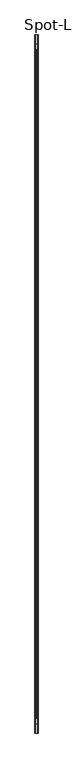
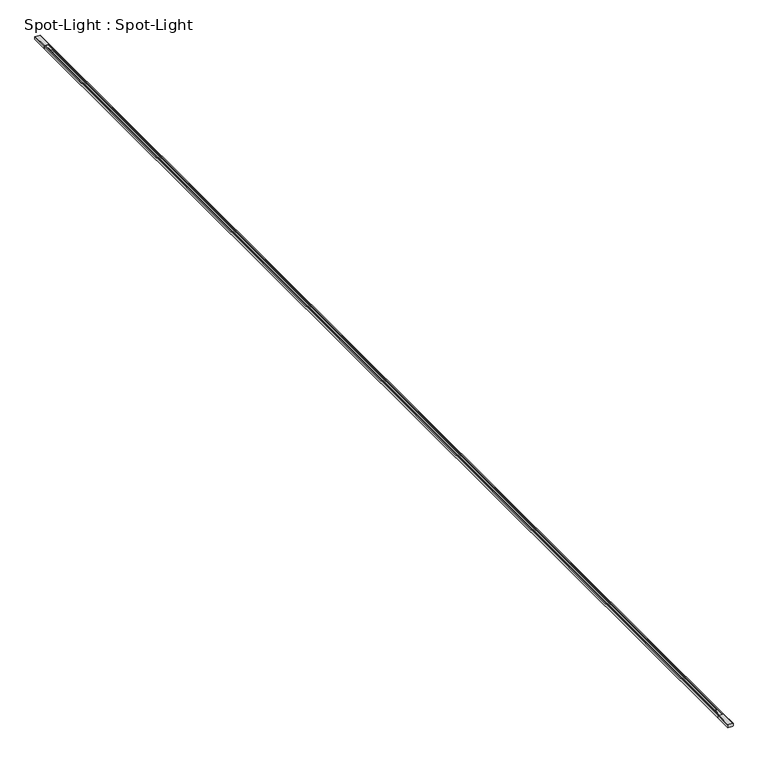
"""IFC4 building model written with IfcOpenShell, lengths in millimetres: light fixture geometry, Spot-Light : Spot-Light."""

from ifc_helpers import new_model, si_unit, frame, origin, place, context, project, spatial, polyline, outline, extrude, source, transform, mapped, element, save


def spot_light_spot_light_b98040ed(model_context):
    return source(origin(), model_context, "Body", "SweptSolid", [
        extrude(outline(polyline([(19.0002441, -6.5002441), (15.5004883, -6.5002441), (15.5004883, -12.9992664), (3.500061, -12.9992652), (3.500061, 12.99927), (15.5004883, 12.99927), (15.5004883, 6.5002441), (19.0002441, 6.5002441), (19.0002441, -6.5002441)])), frame((0.0, 3514.9810791, 0.0), z_axis=(0.0, 1.0, 0.0), x_axis=(0.0, 0.0, 1.0)), (0.0, 0.0, 1.0), 50.0),
        extrude(outline(polyline([(19.0005493, -14.6994006), (17.2003174, -16.5002429), (1.7999268, -16.5002406), (0.0, -14.6997035), (0.0, 14.6997094), (1.7999268, 16.5002465), (17.2003174, 16.5002465), (19.0005493, 14.6994041), (19.0005493, -14.6994006)])), frame((0.0, 3564.9810791, 0.0), z_axis=(0.0, 1.0, 0.0), x_axis=(0.0, 0.0, 1.0)), (0.0, 0.0, 1.0), 100.0),
        extrude(outline(polyline([(19.0002441, -6.5002441), (15.5004883, -6.5002441), (15.5004883, -12.9992664), (3.500061, -12.9992652), (3.500061, 12.99927), (15.5004883, 12.99927), (15.5004883, 6.5002441), (19.0002441, 6.5002441), (19.0002441, -6.5002441)])), frame((0.0, -3564.9810791, 0.0), z_axis=(0.0, 1.0, 0.0), x_axis=(0.0, 0.0, 1.0)), (0.0, 0.0, 1.0), 50.0),
        extrude(outline(polyline([(19.0005493, -14.6994006), (17.2003174, -16.5002429), (1.7999268, -16.5002406), (0.0, -14.6997035), (0.0, 14.6997094), (1.7999268, 16.5002465), (17.2003174, 16.5002465), (19.0005493, 14.6994041), (19.0005493, -14.6994006)])), frame((0.0, -3664.9810791, 0.0), z_axis=(0.0, 1.0, 0.0), x_axis=(0.0, 0.0, 1.0)), (0.0, 0.0, 1.0), 100.0),
        extrude(outline(polyline([(19.0002441, 6.5002441), (15.5004883, 6.5002441), (15.5004883, 12.99927), (3.500061, 12.99927), (3.500061, -12.9992652), (15.5004883, -12.9992664), (15.5004883, -6.5002441), (19.0002441, -6.5002441), (19.0002441, -14.6997058), (17.2003174, -16.5002429), (1.7999268, -16.5002406), (0.0, -14.6997035), (0.0, 14.6997094), (1.7999268, 16.5002465), (17.2003174, 16.5002465), (19.0002441, 14.6997094), (19.0002441, 6.5002441)])), frame((0.0, -3564.9810791, 0.0), z_axis=(0.0, 1.0, 0.0), x_axis=(0.0, 0.0, 1.0)), (0.0, 0.0, 1.0), 7129.9621582),
    ])


if __name__ == "__main__":
    model = new_model("IFC4")
    model_context = context("Model", 3, world=origin())
    ifc_project = project(units=[si_unit("LENGTHUNIT", "METRE", prefix="MILLI")], contexts=[model_context])
    site = spatial("IfcSite", under=ifc_project)
    building = spatial("IfcBuilding", under=site)
    placement = place(None, origin())
    spot_light_spot_light_shape = spot_light_spot_light_b98040ed(model_context)
    element("IfcLightFixture", 1, ObjectType="Spot-Light : Spot-Light", at=placement, inside=building, context=model_context, shape_type="MappedRepresentation", body=[
        mapped(spot_light_spot_light_shape, transform((0.0, 0.0, 0.0), x_axis=(1.0, 0.0, 0.0), y_axis=(0.0, 1.0, 0.0), z_axis=(0.0, 0.0, 1.0))),
    ])
    save(model, "model.ifc")
